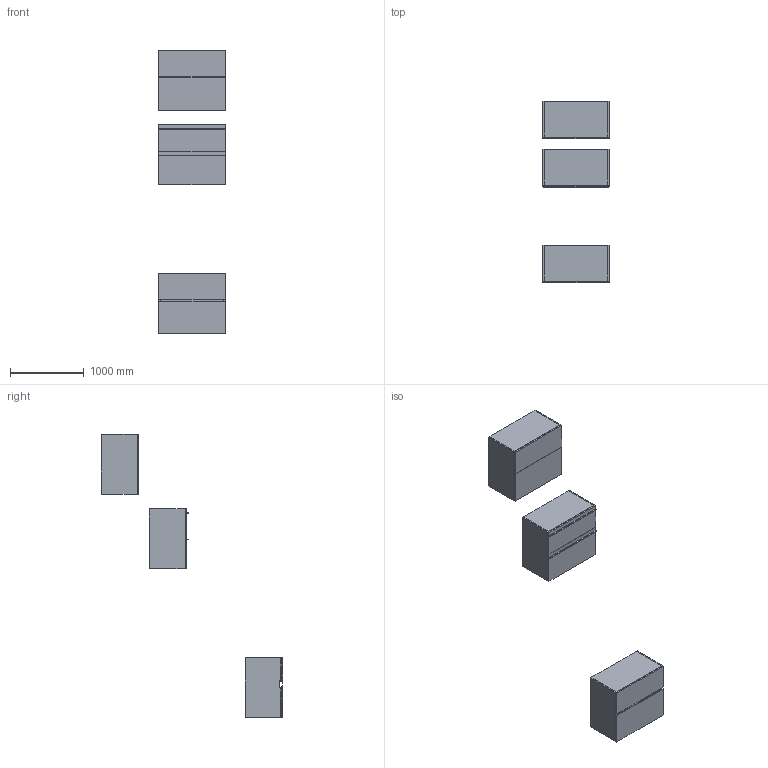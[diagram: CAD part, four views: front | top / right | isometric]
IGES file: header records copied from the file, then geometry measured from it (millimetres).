
Start section: Data from Parasolid IGES Translator 19.0.9, Copyright(c) 2006 Siemens PL M Software. All Rights Reserved.
Global section: file name: noorth-SI-H 81,2 D 51 W 90_9731.igs; native system: By Siemens PLM Incorporated; preprocessor: XPlus GENERIC/IGES 19.0.9; author: Noname; organization: Noname; date: 20200601.141801; units: metre
Bounding box: 900 x 2458 x 3842 mm (x, y, z)
Volume: 125648595.5 mm3; surface area: 19328227.1 mm2
Topology: 24 solids, 24 shells, 248 faces, 544 edges, 324 vertices
Faces by surface type: plane 164, extrusion 36, bspline 32, cylinder 16
